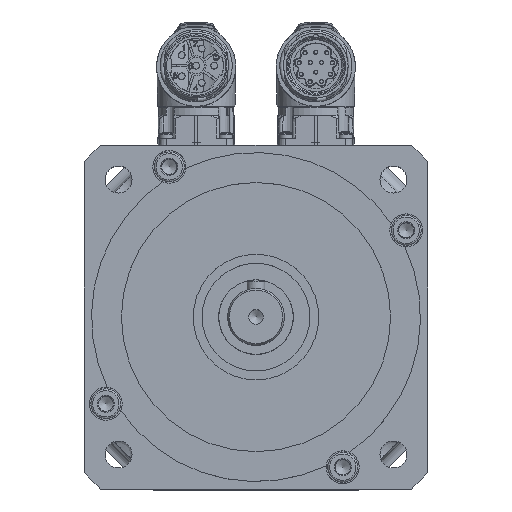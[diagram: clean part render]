
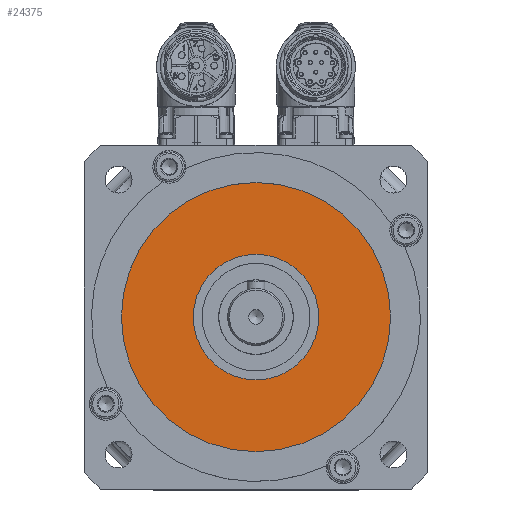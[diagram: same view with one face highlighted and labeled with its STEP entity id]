
A CAD part, top view. The second image highlights one B-rep face of the part: STEP entity #24375.
In plain terms, the highlighted planar face has unit normal (0, 0, 1).
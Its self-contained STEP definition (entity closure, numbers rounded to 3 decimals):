
#2251=FACE_BOUND('',#7873,.T.);
#2252=FACE_BOUND('',#7874,.T.);
#2786=PLANE('',#26166);
#7873=EDGE_LOOP('',(#18438));
#7874=EDGE_LOOP('',(#18439));
#9642=CIRCLE('',#26164,21.);
#9643=CIRCLE('',#26167,45.);
#11778=VERTEX_POINT('',#36387);
#11779=VERTEX_POINT('',#36391);
#14387=EDGE_CURVE('',#11778,#11778,#9642,.T.);
#14388=EDGE_CURVE('',#11779,#11779,#9643,.T.);
#18438=ORIENTED_EDGE('',*,*,#14387,.T.);
#18439=ORIENTED_EDGE('',*,*,#14388,.F.);
#24375=ADVANCED_FACE('',(#2251,#2252),#2786,.T.);
#26164=AXIS2_PLACEMENT_3D('',#36388,#29611,#29612);
#26166=AXIS2_PLACEMENT_3D('',#36390,#29615,#29616);
#26167=AXIS2_PLACEMENT_3D('',#36392,#29617,#29618);
#29611=DIRECTION('center_axis',(0.,0.,-1.));
#29612=DIRECTION('ref_axis',(-1.,0.,0.));
#29615=DIRECTION('center_axis',(0.,0.,1.));
#29616=DIRECTION('ref_axis',(1.,0.,0.));
#29617=DIRECTION('center_axis',(0.,0.,-1.));
#29618=DIRECTION('ref_axis',(-1.,0.,0.));
#36387=CARTESIAN_POINT('',(21.,0.,11.5));
#36388=CARTESIAN_POINT('Origin',(0.,0.,11.5));
#36390=CARTESIAN_POINT('Origin',(0.,0.,
11.5));
#36391=CARTESIAN_POINT('',(45.,0.,11.5));
#36392=CARTESIAN_POINT('Origin',(0.,0.,11.5));
